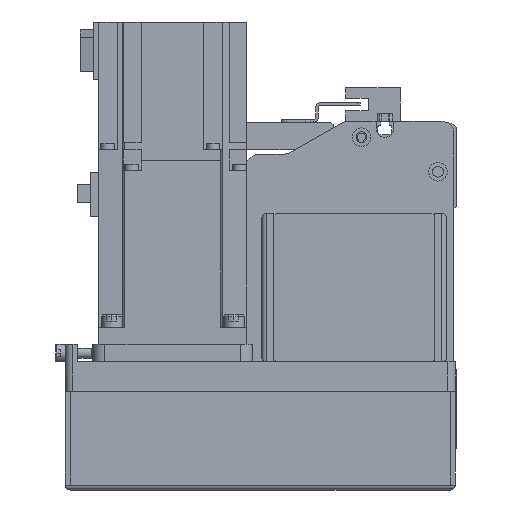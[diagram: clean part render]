
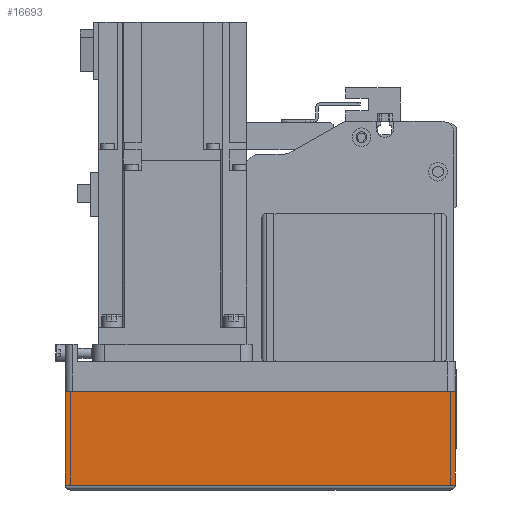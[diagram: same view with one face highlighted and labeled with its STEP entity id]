
A CAD part, left-side view. The second image highlights one B-rep face of the part: STEP entity #16693.
In plain terms, the highlighted planar face has unit normal (-1, 0, 0) as drawn and (0, -1, 0) by its records, which use the part's own axes.
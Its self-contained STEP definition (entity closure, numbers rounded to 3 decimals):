
#2634=ORIENTED_EDGE('',*,*,#6709,.F.);
#2635=ORIENTED_EDGE('',*,*,#6691,.F.);
#2636=ORIENTED_EDGE('',*,*,#6726,.T.);
#2637=ORIENTED_EDGE('',*,*,#6781,.T.);
#6691=EDGE_CURVE('',#8919,#8920,#10621,.T.);
#6709=EDGE_CURVE('',#8920,#8936,#10639,.T.);
#6726=EDGE_CURVE('',#8919,#8946,#10652,.T.);
#6781=EDGE_CURVE('',#8946,#8936,#10680,.T.);
#8919=VERTEX_POINT('',#25630);
#8920=VERTEX_POINT('',#25631);
#8936=VERTEX_POINT('',#25668);
#8946=VERTEX_POINT('',#25698);
#10621=LINE('',#25629,#12211);
#10639=LINE('',#25667,#12229);
#10652=LINE('',#25699,#12242);
#10680=LINE('',#25797,#12270);
#12211=VECTOR('',#20519,1000.);
#12229=VECTOR('',#20543,1000.);
#12242=VECTOR('',#20572,1000.);
#12270=VECTOR('',#20700,1000.);
#13689=EDGE_LOOP('',(#2634,#2635,#2636,#2637));
#14919=FACE_BOUND('',#13689,.T.);
#15976=PLANE('',#17914);
#16693=ADVANCED_FACE('',(#14919),#15976,.T.);
#17914=AXIS2_PLACEMENT_3D('',#25798,#20701,#20702);
#20519=DIRECTION('',(1.,0.,0.));
#20543=DIRECTION('',(0.,0.,-1.));
#20572=DIRECTION('',(0.,0.,-1.));
#20700=DIRECTION('',(1.,0.,0.));
#20701=DIRECTION('',(0.,-1.,0.));
#20702=DIRECTION('',(0.,0.,-1.));
#25629=CARTESIAN_POINT('',(-158.,-39.,-12.1));
#25630=CARTESIAN_POINT('',(-158.,-39.,-12.1));
#25631=CARTESIAN_POINT('',(0.,-39.,-12.1));
#25667=CARTESIAN_POINT('',(0.,-39.,-12.1));
#25668=CARTESIAN_POINT('',(0.,-39.,-50.));
#25698=CARTESIAN_POINT('',(-158.,-39.,-50.));
#25699=CARTESIAN_POINT('',(-158.,-39.,-12.1));
#25797=CARTESIAN_POINT('',(-158.,-39.,-50.));
#25798=CARTESIAN_POINT('',(-158.,-39.,-12.1));
